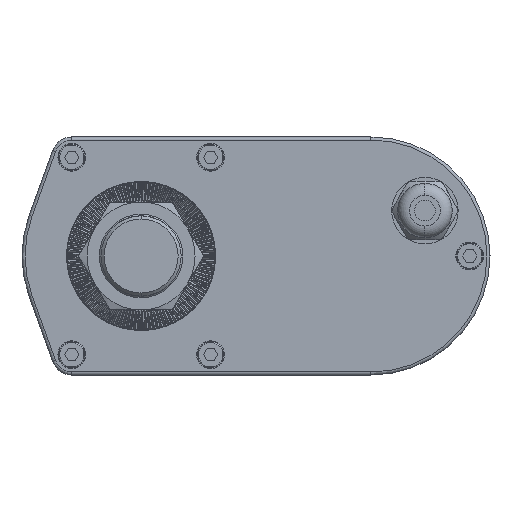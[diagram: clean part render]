
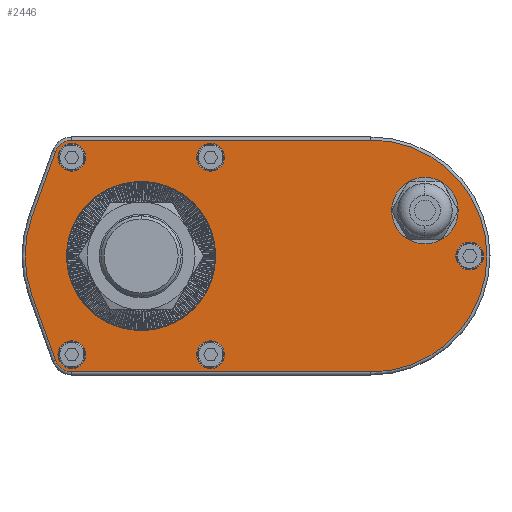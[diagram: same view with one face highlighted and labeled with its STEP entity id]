
A CAD part, left-side view. The second image highlights one B-rep face of the part: STEP entity #2446.
In plain terms, the highlighted planar face has unit normal (-1, 0, 0).
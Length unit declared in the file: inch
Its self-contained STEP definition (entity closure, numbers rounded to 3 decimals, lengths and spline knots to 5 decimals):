
#2446=ADVANCED_FACE('',(#6214,#6215,#6216,#6217,#6218,#6219,#6220,#6221),#6222,.F.);
#6214=FACE_BOUND('',#11508,.T.);
#6215=FACE_BOUND('',#11509,.T.);
#6216=FACE_BOUND('',#11510,.T.);
#6217=FACE_BOUND('',#11511,.T.);
#6218=FACE_BOUND('',#11512,.T.);
#6219=FACE_BOUND('',#11513,.T.);
#6220=FACE_BOUND('',#11514,.T.);
#6221=FACE_OUTER_BOUND('',#11515,.T.);
#6222=PLANE('',#11516);
#11508=EDGE_LOOP('',(#19018,#19019));
#11509=EDGE_LOOP('',(#19020,#19021));
#11510=EDGE_LOOP('',(#19022,#19023));
#11511=EDGE_LOOP('',(#19024,#19025));
#11512=EDGE_LOOP('',(#19026,#19027));
#11513=EDGE_LOOP('',(#19028,#19029));
#11514=EDGE_LOOP('',(#19030,#19031));
#11515=EDGE_LOOP('',(#19032,#19033,#19034,#19035,#19036,#19037,#19038,#19039));
#11516=AXIS2_PLACEMENT_3D('',#19040,#19041,#19042);
#19018=ORIENTED_EDGE('',*,*,#32598,.F.);
#19019=ORIENTED_EDGE('',*,*,#32599,.F.);
#19020=ORIENTED_EDGE('',*,*,#32600,.F.);
#19021=ORIENTED_EDGE('',*,*,#32601,.F.);
#19022=ORIENTED_EDGE('',*,*,#32602,.T.);
#19023=ORIENTED_EDGE('',*,*,#32555,.T.);
#19024=ORIENTED_EDGE('',*,*,#32603,.T.);
#19025=ORIENTED_EDGE('',*,*,#32604,.T.);
#19026=ORIENTED_EDGE('',*,*,#32605,.T.);
#19027=ORIENTED_EDGE('',*,*,#32606,.T.);
#19028=ORIENTED_EDGE('',*,*,#31332,.T.);
#19029=ORIENTED_EDGE('',*,*,#31187,.T.);
#19030=ORIENTED_EDGE('',*,*,#32607,.T.);
#19031=ORIENTED_EDGE('',*,*,#32608,.T.);
#19032=ORIENTED_EDGE('',*,*,#32609,.T.);
#19033=ORIENTED_EDGE('',*,*,#32610,.T.);
#19034=ORIENTED_EDGE('',*,*,#32611,.T.);
#19035=ORIENTED_EDGE('',*,*,#32612,.T.);
#19036=ORIENTED_EDGE('',*,*,#32613,.T.);
#19037=ORIENTED_EDGE('',*,*,#32614,.T.);
#19038=ORIENTED_EDGE('',*,*,#32615,.T.);
#19039=ORIENTED_EDGE('',*,*,#32616,.T.);
#19040=CARTESIAN_POINT('',(0.0,-2.93307,0.0));
#19041=DIRECTION('',(1.0,0.0,0.0));
#19042=DIRECTION('',(0.0,1.0,-0.0));
#31187=EDGE_CURVE('',#37340,#37338,#37341,.T.);
#31332=EDGE_CURVE('',#37338,#37340,#37585,.T.);
#32555=EDGE_CURVE('',#39609,#39607,#39610,.T.);
#32598=EDGE_CURVE('',#39679,#39680,#39681,.F.);
#32599=EDGE_CURVE('',#39680,#39679,#39682,.F.);
#32600=EDGE_CURVE('',#39683,#39684,#39685,.F.);
#32601=EDGE_CURVE('',#39684,#39683,#39686,.F.);
#32602=EDGE_CURVE('',#39607,#39609,#39687,.T.);
#32603=EDGE_CURVE('',#39688,#39689,#39690,.T.);
#32604=EDGE_CURVE('',#39689,#39688,#39691,.T.);
#32605=EDGE_CURVE('',#39692,#39693,#39694,.T.);
#32606=EDGE_CURVE('',#39693,#39692,#39695,.T.);
#32607=EDGE_CURVE('',#39696,#39697,#39698,.T.);
#32608=EDGE_CURVE('',#39697,#39696,#39699,.T.);
#32609=EDGE_CURVE('',#39700,#39701,#39702,.F.);
#32610=EDGE_CURVE('',#39701,#39703,#39704,.F.);
#32611=EDGE_CURVE('',#39703,#39705,#39706,.F.);
#32612=EDGE_CURVE('',#39705,#39707,#39708,.F.);
#32613=EDGE_CURVE('',#39707,#39709,#39710,.F.);
#32614=EDGE_CURVE('',#39709,#39711,#39712,.F.);
#32615=EDGE_CURVE('',#39711,#39713,#39714,.F.);
#32616=EDGE_CURVE('',#39713,#39700,#39715,.F.);
#37338=VERTEX_POINT('',#45812);
#37340=VERTEX_POINT('',#45815);
#37341=CIRCLE('',#45816,0.17717);
#37585=CIRCLE('',#46137,0.17717);
#39607=VERTEX_POINT('',#48872);
#39609=VERTEX_POINT('',#48875);
#39610=CIRCLE('',#48876,0.17717);
#39679=VERTEX_POINT('',#48972);
#39680=VERTEX_POINT('',#48973);
#39681=CIRCLE('',#48974,0.3248);
#39682=CIRCLE('',#48975,0.3248);
#39683=VERTEX_POINT('',#48976);
#39684=VERTEX_POINT('',#48977);
#39685=CIRCLE('',#48978,0.94882);
#39686=CIRCLE('',#48979,0.94882);
#39687=CIRCLE('',#48980,0.17717);
#39688=VERTEX_POINT('',#48981);
#39689=VERTEX_POINT('',#48982);
#39690=CIRCLE('',#48983,0.17717);
#39691=CIRCLE('',#48984,0.17717);
#39692=VERTEX_POINT('',#48985);
#39693=VERTEX_POINT('',#48986);
#39694=CIRCLE('',#48987,0.17717);
#39695=CIRCLE('',#48988,0.17717);
#39696=VERTEX_POINT('',#48989);
#39697=VERTEX_POINT('',#48990);
#39698=CIRCLE('',#48991,0.17717);
#39699=CIRCLE('',#48992,0.17717);
#39700=VERTEX_POINT('',#48993);
#39701=VERTEX_POINT('',#48994);
#39702=CIRCLE('',#48995,1.48031);
#39703=VERTEX_POINT('',#48996);
#39704=LINE('',#48997,#48998);
#39705=VERTEX_POINT('',#48999);
#39706=CIRCLE('',#49000,0.22047);
#39707=VERTEX_POINT('',#49001);
#39708=LINE('',#49002,#49003);
#39709=VERTEX_POINT('',#49004);
#39710=CIRCLE('',#49005,1.48031);
#39711=VERTEX_POINT('',#49006);
#39712=LINE('',#49007,#49008);
#39713=VERTEX_POINT('',#49009);
#39714=CIRCLE('',#49010,0.22047);
#39715=LINE('',#49011,#49012);
#45812=CARTESIAN_POINT('',(0.0,-0.8874,1.08268));
#45815=CARTESIAN_POINT('',(0.0,-0.8874,1.43701));
#45816=AXIS2_PLACEMENT_3D('',#56412,#56413,#56414);
#46137=AXIS2_PLACEMENT_3D('',#56597,#56598,#56599);
#48872=CARTESIAN_POINT('',(0.0,-4.19449,-0.17717));
#48875=CARTESIAN_POINT('',(0.0,-4.19449,0.17717));
#48876=AXIS2_PLACEMENT_3D('',#58236,#58237,#58238);
#48972=CARTESIAN_POINT('',(0.0,-3.62205,0.25394));
#48973=CARTESIAN_POINT('',(0.0,-3.62205,0.90354));
#48974=AXIS2_PLACEMENT_3D('',#58294,#58295,#58296);
#48975=AXIS2_PLACEMENT_3D('',#58297,#58298,#58299);
#48976=CARTESIAN_POINT('',(0.0,0.0,-0.94882));
#48977=CARTESIAN_POINT('',(0.0,0.,0.94882));
#48978=AXIS2_PLACEMENT_3D('',#58300,#58301,#58302);
#48979=AXIS2_PLACEMENT_3D('',#58303,#58304,#58305);
#48980=AXIS2_PLACEMENT_3D('',#58306,#58307,#58308);
#48981=CARTESIAN_POINT('',(0.0,0.88425,1.08268));
#48982=CARTESIAN_POINT('',(0.0,0.88425,1.43701));
#48983=AXIS2_PLACEMENT_3D('',#58309,#58310,#58311);
#48984=AXIS2_PLACEMENT_3D('',#58312,#58313,#58314);
#48985=CARTESIAN_POINT('',(0.0,-0.8874,-1.43701));
#48986=CARTESIAN_POINT('',(0.0,-0.8874,-1.08268));
#48987=AXIS2_PLACEMENT_3D('',#58315,#58316,#58317);
#48988=AXIS2_PLACEMENT_3D('',#58318,#58319,#58320);
#48989=CARTESIAN_POINT('',(0.0,0.88425,-1.43701));
#48990=CARTESIAN_POINT('',(0.0,0.88425,-1.08268));
#48991=AXIS2_PLACEMENT_3D('',#58321,#58322,#58323);
#48992=AXIS2_PLACEMENT_3D('',#58324,#58325,#58326);
#48993=CARTESIAN_POINT('',(0.0,1.39217,0.50319));
#48994=CARTESIAN_POINT('',(0.0,1.39217,-0.50319));
#48995=AXIS2_PLACEMENT_3D('',#58327,#58328,#58329);
#48996=CARTESIAN_POINT('',(0.0,1.0916,-1.33479));
#48997=CARTESIAN_POINT('',(0.0,1.0916,-1.33479));
#48998=VECTOR('',#58330,39.37008);
#48999=CARTESIAN_POINT('',(0.0,0.88425,-1.48031));
#49000=AXIS2_PLACEMENT_3D('',#58331,#58332,#58333);
#49001=CARTESIAN_POINT('',(0.0,-2.93307,-1.48031));
#49002=CARTESIAN_POINT('',(0.0,-2.93307,-1.48031));
#49003=VECTOR('',#58334,39.37008);
#49004=CARTESIAN_POINT('',(0.0,-2.93307,1.48031));
#49005=AXIS2_PLACEMENT_3D('',#58335,#58336,#58337);
#49006=CARTESIAN_POINT('',(0.0,0.88425,1.48031));
#49007=CARTESIAN_POINT('',(0.0,0.88425,1.48031));
#49008=VECTOR('',#58338,39.37008);
#49009=CARTESIAN_POINT('',(0.0,1.0916,1.33479));
#49010=AXIS2_PLACEMENT_3D('',#58339,#58340,#58341);
#49011=CARTESIAN_POINT('',(0.0,1.39217,0.50319));
#49012=VECTOR('',#58342,39.37008);
#56412=CARTESIAN_POINT('',(0.0,-0.8874,1.25984));
#56413=DIRECTION('',(1.0,0.0,0.0));
#56414=DIRECTION('',(0.0,0.0,-1.0));
#56597=CARTESIAN_POINT('',(0.0,-0.8874,1.25984));
#56598=DIRECTION('',(1.0,0.0,0.0));
#56599=DIRECTION('',(0.0,0.0,-1.0));
#58236=CARTESIAN_POINT('',(0.0,-4.19449,0.0));
#58237=DIRECTION('',(1.0,0.0,0.0));
#58238=DIRECTION('',(0.0,0.0,-1.0));
#58294=CARTESIAN_POINT('',(0.0,-3.62205,0.57874));
#58295=DIRECTION('',(1.0,0.0,0.0));
#58296=DIRECTION('',(0.0,0.0,-1.0));
#58297=CARTESIAN_POINT('',(0.0,-3.62205,0.57874));
#58298=DIRECTION('',(1.0,0.0,0.0));
#58299=DIRECTION('',(0.0,0.0,-1.0));
#58300=CARTESIAN_POINT('',(0.0,0.0,0.0));
#58301=DIRECTION('',(1.0,0.0,0.0));
#58302=DIRECTION('',(0.0,0.0,-1.0));
#58303=CARTESIAN_POINT('',(0.0,0.0,0.0));
#58304=DIRECTION('',(1.0,0.0,0.0));
#58305=DIRECTION('',(0.0,0.0,-1.0));
#58306=CARTESIAN_POINT('',(0.0,-4.19449,0.0));
#58307=DIRECTION('',(1.0,0.0,0.0));
#58308=DIRECTION('',(0.0,0.0,-1.0));
#58309=CARTESIAN_POINT('',(0.0,0.88425,1.25984));
#58310=DIRECTION('',(1.0,0.0,0.0));
#58311=DIRECTION('',(0.0,0.0,-1.0));
#58312=CARTESIAN_POINT('',(0.0,0.88425,1.25984));
#58313=DIRECTION('',(1.0,0.0,0.0));
#58314=DIRECTION('',(0.0,0.0,-1.0));
#58315=CARTESIAN_POINT('',(0.0,-0.8874,-1.25984));
#58316=DIRECTION('',(1.0,0.0,0.0));
#58317=DIRECTION('',(0.0,0.0,-1.0));
#58318=CARTESIAN_POINT('',(0.0,-0.8874,-1.25984));
#58319=DIRECTION('',(1.0,0.0,0.0));
#58320=DIRECTION('',(0.0,0.0,-1.0));
#58321=CARTESIAN_POINT('',(0.0,0.88425,-1.25984));
#58322=DIRECTION('',(1.0,0.0,0.0));
#58323=DIRECTION('',(0.0,0.0,-1.0));
#58324=CARTESIAN_POINT('',(0.0,0.88425,-1.25984));
#58325=DIRECTION('',(1.0,0.0,0.0));
#58326=DIRECTION('',(0.0,0.0,-1.0));
#58327=CARTESIAN_POINT('',(0.0,0.,0.0));
#58328=DIRECTION('',(1.0,0.0,0.0));
#58329=DIRECTION('',(0.0,0.0,-1.0));
#58330=DIRECTION('',(0.0,0.34,0.94));
#58331=CARTESIAN_POINT('',(0.0,0.88425,-1.25984));
#58332=DIRECTION('',(1.0,0.0,0.0));
#58333=DIRECTION('',(0.0,0.0,-1.0));
#58334=DIRECTION('',(0.0,1.0,0.0));
#58335=CARTESIAN_POINT('',(0.0,-2.93307,0.0));
#58336=DIRECTION('',(1.0,0.0,0.0));
#58337=DIRECTION('',(0.0,0.0,-1.0));
#58338=DIRECTION('',(0.0,-1.0,0.0));
#58339=CARTESIAN_POINT('',(0.0,0.88425,1.25984));
#58340=DIRECTION('',(1.0,0.0,0.0));
#58341=DIRECTION('',(0.0,0.0,-1.0));
#58342=DIRECTION('',(0.0,-0.34,0.94));
